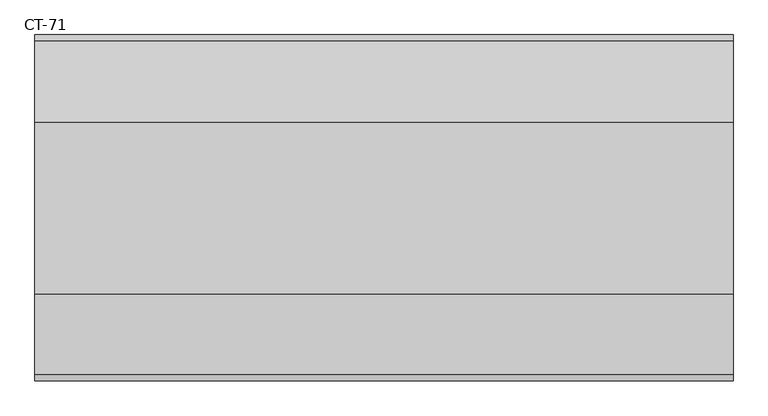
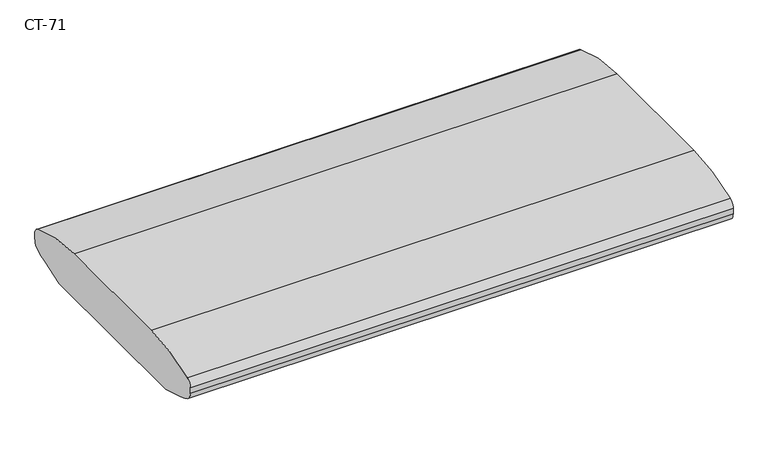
"""IFC4 building model written with IfcOpenShell, lengths in millimetres: furniture geometry, Davis_Furniture-Cantina-Backless_Bench_Straight : CT-71."""

import ifcopenshell
import ifcopenshell.guid

model = None  # the IFC model being written
_history = None  # IfcOwnerHistory: only IFC2X3 demands one
_inside = {}  # id of a spatial element -> (the spatial element, [elements in it])
_under = {}  # id of a project, library or spatial element -> (it, [spatial elements below it])
_declared = {}  # id of a project -> (the project, [libraries it declares])
_typed = {}  # id of a type object -> (the type object, [elements of that type])
_made_of = {}  # id of a material, layer set ... -> (it, [elements and type objects made of it])


def new_model(schema):
    """Start an empty IFC model of exactly this schema.

    Asked for "IFC4X3", IfcOpenShell would pick the latest addendum, in which some entities
    have other attributes; the version numbers below select the first issue.
    IFC2X3 requires an IfcOwnerHistory on every rooted entity: one is made here for all.
    """
    global model, _history
    if schema == "IFC4X3":
        model = ifcopenshell.file(schema_version=(4, 3, 0, 0))
    else:
        model = ifcopenshell.file(schema=schema)
    _inside.clear()
    _under.clear()
    _declared.clear()
    _typed.clear()
    _made_of.clear()
    _history = None
    if model.schema == "IFC2X3":
        org = make("IfcOrganization", Name="unknown")
        user = make(
            "IfcPersonAndOrganization",
            ThePerson=make("IfcPerson", FamilyName="unknown"),
            TheOrganization=org,
        )
        app = make(
            "IfcApplication",
            ApplicationDeveloper=org,
            Version="unknown",
            ApplicationFullName="unknown",
            ApplicationIdentifier="unknown",
        )
        _history = make(
            "IfcOwnerHistory",
            OwningUser=user,
            OwningApplication=app,
            ChangeAction="ADDED",
            CreationDate=0,
        )
    return model


def make(cls, **values):
    """One entity of the class cls with the attributes given. An attribute that is None is left unset."""
    return model.create_entity(
        cls, **{name: value for name, value in values.items() if value is not None}
    )


def rooted(cls, **values):
    """An entity with a GlobalId (a new one), such as an element, a storey or a relation."""
    return make(cls, GlobalId=ifcopenshell.guid.new(), OwnerHistory=_history, **values)


def si_unit(unit_type, name, prefix=None):
    """IfcSIUnit, for example si_unit("LENGTHUNIT", "METRE", prefix="MILLI")."""
    return make("IfcSIUnit", UnitType=unit_type, Prefix=prefix, Name=name)


def assignment(units):
    """IfcUnitAssignment: the units of a project."""
    return None if units is None else make("IfcUnitAssignment", Units=units)


def point(xyz):
    """IfcCartesianPoint."""
    return None if xyz is None else make("IfcCartesianPoint", Coordinates=xyz)


def direction(xyz):
    """IfcDirection."""
    return None if xyz is None else make("IfcDirection", DirectionRatios=xyz)


def frame(location, z_axis=None, x_axis=None):
    """IfcAxis2Placement3D, a coordinate frame: its origin and axes. An axis left out is left unset."""
    return make(
        "IfcAxis2Placement3D",
        Location=point(location),
        Axis=direction(z_axis),
        RefDirection=direction(x_axis),
    )


def frame_2d(location, x_axis=None):
    """IfcAxis2Placement2D, a coordinate frame in the plane: its origin and x axis."""
    return make(
        "IfcAxis2Placement2D", Location=point(location), RefDirection=direction(x_axis)
    )


def origin():
    """The frame at (0, 0, 0) with its axes left unset."""
    return frame((0.0, 0.0, 0.0))


def place(relative_to, where):
    """IfcLocalPlacement: puts the frame where relative to a parent placement (None: the world)."""
    return make(
        "IfcLocalPlacement", PlacementRelTo=relative_to, RelativePlacement=where
    )


def context(
    kind, dimensions, precision=None, world=None, true_north=None, identifier=None
):
    """IfcGeometricRepresentationContext, for example the 3D "Model" context."""
    return make(
        "IfcGeometricRepresentationContext",
        ContextIdentifier=identifier,
        ContextType=kind,
        CoordinateSpaceDimension=dimensions,
        Precision=precision,
        WorldCoordinateSystem=world,
        TrueNorth=true_north,
    )


def project(units=None, contexts=None):
    """IfcProject with its units and contexts."""
    return rooted(
        "IfcProject",
        Name="project",
        RepresentationContexts=contexts,
        UnitsInContext=assignment(units),
    )


def spatial(cls, under=None, at=None, **own):
    """A site, building, storey or space (cls), placed at a placement, below another one or the project."""
    s = rooted(cls, ObjectPlacement=at, **own)
    if under is not None:
        _under.setdefault(under.id(), (under, []))[1].append(s)
    return s


def polyline(points):
    """IfcPolyline through the points."""
    return make("IfcPolyline", Points=[point(p) for p in points])


def circle_curve(where, radius):
    """IfcCircle in the frame where."""
    return make("IfcCircle", Position=where, Radius=radius)


def trimmed(basis, trim1, trim2, sense, master):
    """IfcTrimmedCurve: the piece of a basis curve between two trims."""
    return make(
        "IfcTrimmedCurve",
        BasisCurve=basis,
        Trim1=trim1,
        Trim2=trim2,
        SenseAgreement=sense,
        MasterRepresentation=master,
    )


def segment(curve, same_sense, transition):
    """IfcCompositeCurveSegment."""
    return make(
        "IfcCompositeCurveSegment",
        Transition=transition,
        SameSense=same_sense,
        ParentCurve=curve,
    )


def composite_curve(segments, self_intersect=None):
    """IfcCompositeCurve: segments joined end to end."""
    return make("IfcCompositeCurve", Segments=segments, SelfIntersect=self_intersect)


def outline(outer, holes=None, kind="AREA"):
    """IfcArbitraryClosedProfileDef: a profile drawn as a closed curve; with holes, ...WithVoids."""
    if holes is None:
        return make("IfcArbitraryClosedProfileDef", ProfileType=kind, OuterCurve=outer)
    return make(
        "IfcArbitraryProfileDefWithVoids",
        ProfileType=kind,
        OuterCurve=outer,
        InnerCurves=holes,
    )


def extrude(swept, where, along, depth):
    """IfcExtrudedAreaSolid: the profile swept, set in the frame where, extruded along a direction by depth."""
    return make(
        "IfcExtrudedAreaSolid",
        SweptArea=swept,
        Position=where,
        ExtrudedDirection=direction(along),
        Depth=depth,
    )


def shape(context_of_items, identifier, shape_type, items):
    """IfcShapeRepresentation: the items that make up one representation, for example the "Body"."""
    return make(
        "IfcShapeRepresentation",
        ContextOfItems=context_of_items,
        RepresentationIdentifier=identifier,
        RepresentationType=shape_type,
        Items=items,
    )


def source(mapping_origin, context_of_items, identifier, shape_type, items):
    """IfcRepresentationMap: a shape defined once, which mapped items show again and again."""
    return make(
        "IfcRepresentationMap",
        MappingOrigin=mapping_origin,
        MappedRepresentation=shape(context_of_items, identifier, shape_type, items),
    )


def transform(
    local_origin,
    x_axis=None,
    y_axis=None,
    z_axis=None,
    scale=None,
    scale2=None,
    scale3=None,
    uniform=True,
):
    """IfcCartesianTransformationOperator3D, or its non-uniform kind. x_axis, y_axis, z_axis: its Axis1, 2, 3."""
    if uniform:
        return make(
            "IfcCartesianTransformationOperator3D",
            Axis1=direction(x_axis),
            Axis2=direction(y_axis),
            LocalOrigin=point(local_origin),
            Scale=scale,
            Axis3=direction(z_axis),
        )
    return make(
        "IfcCartesianTransformationOperator3DnonUniform",
        Axis1=direction(x_axis),
        Axis2=direction(y_axis),
        LocalOrigin=point(local_origin),
        Scale=scale,
        Axis3=direction(z_axis),
        Scale2=scale2,
        Scale3=scale3,
    )


def mapped(mapping_source, mapping_target):
    """IfcMappedItem: shows the shape of a source again, moved by a transform."""
    return make(
        "IfcMappedItem", MappingSource=mapping_source, MappingTarget=mapping_target
    )


def made_of(thing, what):
    """Note that an element or type object is made of a material, layer set ...; save() writes the relation."""
    if what is not None:
        _made_of.setdefault(what.id(), (what, []))[1].append(thing)
    return thing


def element(
    cls,
    number,
    at=None,
    inside=None,
    cuts=None,
    type_object=None,
    material=None,
    context=None,
    identifier="Body",
    shape_type=None,
    held_by="IfcProductDefinitionShape",
    body=None,
    shapes=None,
    **own,
):
    """One element of the class cls, such as IfcWall. Its Tag is "e" and its number.

    at: its placement. inside: the storey or other place that contains it. cuts: it is an
    opening in that element (IfcRelVoidsElement). A single representation is given by context,
    identifier, shape_type and body (its items); several are given by shapes. held_by: the class
    of the entity that holds the representations. save() writes the other relations.
    """
    e = rooted(cls, Tag="e%d" % number, ObjectPlacement=at, **own)
    if body is not None:
        shapes = [shape(context, identifier, shape_type, body)]
    if shapes is not None:
        e.Representation = make(held_by, Representations=shapes)
    if inside is not None:
        _inside.setdefault(inside.id(), (inside, []))[1].append(e)
    if cuts is not None:
        rooted(
            "IfcRelVoidsElement", RelatingBuildingElement=cuts, RelatedOpeningElement=e
        )
    if type_object is not None:
        _typed.setdefault(type_object.id(), (type_object, []))[1].append(e)
    return made_of(e, material)


def aggregate(whole, parts):
    """IfcRelAggregates: a whole, such as a stair, and the parts it consists of."""
    return rooted("IfcRelAggregates", RelatingObject=whole, RelatedObjects=parts)


def save(model, path):
    """Write the relations noted so far, then the file.

    IfcRelAggregates (storeys below a building ...), IfcRelContainedInSpatialStructure (elements
    in a storey), IfcRelDefinesByType, IfcRelAssociatesMaterial and IfcRelDeclares: one each for
    every whole, place, type object, material and project.
    """
    for whole, parts in _under.values():
        aggregate(whole, parts)
    for where, things in _inside.values():
        rooted(
            "IfcRelContainedInSpatialStructure",
            RelatedElements=things,
            RelatingStructure=where,
        )
    for kind, things in _typed.values():
        rooted("IfcRelDefinesByType", RelatedObjects=things, RelatingType=kind)
    for what, things in _made_of.values():
        rooted("IfcRelAssociatesMaterial", RelatedObjects=things, RelatingMaterial=what)
    for by, libraries in _declared.values():
        rooted("IfcRelDeclares", RelatingContext=by, RelatedDefinitions=libraries)
    model.write(path)


def ct_71_36879ba4(model_context):
    return source(origin(), model_context, "Body", "SweptSolid", [
        extrude(outline(composite_curve([segment(trimmed(circle_curve(frame_2d((296.0280274, 397.7963214)), 19.05), [point((303.2855579, 415.40969))], [point((315.0780274, 397.7963214))], False, "CARTESIAN"), True, "CONTINUOUS"), segment(polyline([(315.0780274, 397.7963214), (315.0780274, 384.3379698)]), True, "CONTINUOUS"), segment(trimmed(circle_curve(frame_2d((291.6106342, 384.3379698)), 23.4673933), [point((315.0780274, 384.3379698))], [point((304.2732811, 364.5800367))], False, "CARTESIAN"), True, "CONTINUOUS"), segment(trimmed(circle_curve(frame_2d((270.4128703, 417.4135188)), 62.7527231), [point((304.2732811, 364.5800367))], [point((292.5675411, 358.7017243))], False, "CARTESIAN"), True, "CONTINUOUS"), segment(trimmed(circle_curve(frame_2d((180.8250787, 654.8289187)), 316.5085989), [point((292.5675411, 358.7017243))], [point((276.0441436, 352.9828937))], False, "CARTESIAN"), True, "CONTINUOUS"), segment(polyline([(276.0441436, 352.9828937), (215.4858439, 333.8794297), (-215.4858439, 333.8794297), (-276.0441436, 352.9828937)]), True, "CONTINUOUS"), segment(trimmed(circle_curve(frame_2d((-180.8250787, 654.8289187)), 316.5085989), [point((-276.0441436, 352.9828937))], [point((-292.5675411, 358.7017243))], False, "CARTESIAN"), True, "CONTINUOUS"), segment(trimmed(circle_curve(frame_2d((-270.4128703, 417.4135188)), 62.7527231), [point((-292.5675411, 358.7017243))], [point((-304.2732811, 364.5800367))], False, "CARTESIAN"), True, "CONTINUOUS"), segment(trimmed(circle_curve(frame_2d((-291.6106342, 384.3379698)), 23.4673933), [point((-304.2732811, 364.5800367))], [point((-315.0780274, 384.3379698))], False, "CARTESIAN"), True, "CONTINUOUS"), segment(polyline([(-315.0780274, 384.3379698), (-315.0780274, 397.7963214)]), True, "CONTINUOUS"), segment(trimmed(circle_curve(frame_2d((-296.0280274, 397.7963214)), 19.05), [point((-315.0780274, 397.7963214))], [point((-303.2855579, 415.40969))], False, "CARTESIAN"), True, "CONTINUOUS"), segment(trimmed(circle_curve(frame_2d((-156.3280274, 58.7570862)), 385.7429138), [point((-303.2855579, 415.40969))], [point((-156.3280274, 444.5))], False, "CARTESIAN"), True, "CONTINUOUS"), segment(polyline([(-156.3280274, 444.5), (156.3280274, 444.5)]), True, "CONTINUOUS"), segment(trimmed(circle_curve(frame_2d((156.3280274, 58.7570862)), 385.7429138), [point((156.3280274, 444.5))], [point((303.2855579, 415.40969))], False, "CARTESIAN"), True, "CONTINUOUS")], self_intersect=False)), frame((-635.0, 0.0, 0.0), z_axis=(1.0, 0.0, 0.0), x_axis=(0.0, 1.0, 0.0)), (0.0, 0.0, 1.0), 1270.0),
    ])


if __name__ == "__main__":
    model = new_model("IFC4")
    model_context = context("Model", 3, world=origin())
    ifc_project = project(units=[si_unit("LENGTHUNIT", "METRE", prefix="MILLI")], contexts=[model_context])
    site = spatial("IfcSite", under=ifc_project)
    building = spatial("IfcBuilding", under=site)
    placement = place(None, origin())
    ct_71_shape = ct_71_36879ba4(model_context)
    element("IfcFurniture", 1, ObjectType="Davis_Furniture-Cantina-Backless_Bench_Straight : CT-71", at=placement, inside=building, context=model_context, shape_type="MappedRepresentation", body=[
        mapped(ct_71_shape, transform((0.0, 0.0, 0.0), x_axis=(1.0, 0.0, 0.0), y_axis=(0.0, 1.0, 0.0), z_axis=(0.0, 0.0, 1.0))),
    ])
    save(model, "model.ifc")
